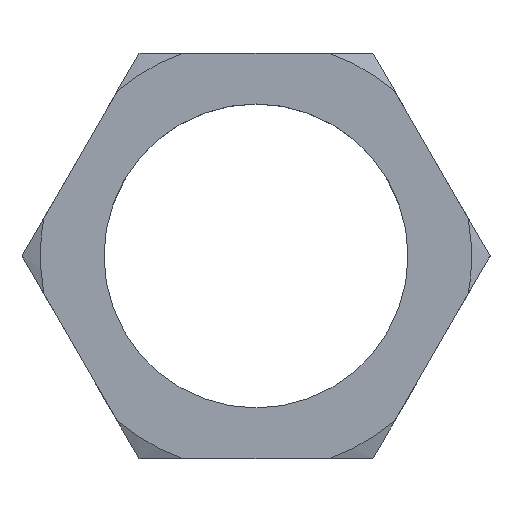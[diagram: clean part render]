
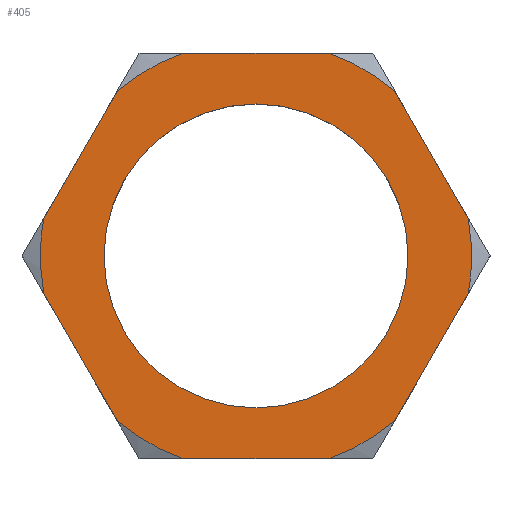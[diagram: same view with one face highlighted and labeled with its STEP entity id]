
A CAD part, top view. The second image highlights one B-rep face of the part: STEP entity #405.
In plain terms, the highlighted planar face has unit normal (0, 0, 1).
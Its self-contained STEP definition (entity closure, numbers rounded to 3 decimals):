
#57=CARTESIAN_POINT('Axis2P3D Location',(0.,0.,80.)) ;
#61=CARTESIAN_POINT('Vertex',(-22.5,0.,80.)) ;
#63=CARTESIAN_POINT('Vertex',(22.5,0.,80.)) ;
#92=CARTESIAN_POINT('Axis2P3D Location',(0.,0.,80.)) ;
#268=CARTESIAN_POINT('Axis2P3D Location',(0.,0.,80.)) ;
#274=CARTESIAN_POINT('Control Point',(-20.544,24.417,80.)) ;
#275=CARTESIAN_POINT('Control Point',(-18.826,25.862,80.)) ;
#276=CARTESIAN_POINT('Control Point',(-16.982,27.156,80.)) ;
#277=CARTESIAN_POINT('Control Point',(-15.027,28.285,80.)) ;
#278=CARTESIAN_POINT('Control Point',(-12.984,29.235,80.)) ;
#279=CARTESIAN_POINT('Control Point',(-10.873,30.,80.)) ;
#280=CARTESIAN_POINT('Vertex',(-20.544,24.417,80.)) ;
#282=CARTESIAN_POINT('Vertex',(-10.873,30.,80.)) ;
#285=CARTESIAN_POINT('Line Origine',(-25.981,15.,80.)) ;
#289=CARTESIAN_POINT('Vertex',(-31.417,5.583,80.)) ;
#293=CARTESIAN_POINT('Control Point',(-31.417,-5.583,80.)) ;
#294=CARTESIAN_POINT('Control Point',(-31.422,-5.558,80.)) ;
#295=CARTESIAN_POINT('Control Point',(-31.427,-5.532,80.)) ;
#296=CARTESIAN_POINT('Control Point',(-31.431,-5.507,80.)) ;
#297=CARTESIAN_POINT('Control Point',(-31.817,-3.297,80.)) ;
#298=CARTESIAN_POINT('Control Point',(-32.008,-1.054,80.)) ;
#299=CARTESIAN_POINT('Control Point',(-32.004,1.174,80.)) ;
#300=CARTESIAN_POINT('Control Point',(-31.806,3.393,80.)) ;
#301=CARTESIAN_POINT('Control Point',(-31.419,5.577,80.)) ;
#302=CARTESIAN_POINT('Control Point',(-31.418,5.579,80.)) ;
#303=CARTESIAN_POINT('Control Point',(-31.418,5.581,80.)) ;
#304=CARTESIAN_POINT('Control Point',(-31.417,5.583,80.)) ;
#305=CARTESIAN_POINT('Vertex',(-31.417,-5.583,80.)) ;
#308=CARTESIAN_POINT('Line Origine',(-25.981,-15.,80.)) ;
#312=CARTESIAN_POINT('Vertex',(-20.544,-24.417,80.)) ;
#316=CARTESIAN_POINT('Control Point',(-20.544,-24.417,80.)) ;
#317=CARTESIAN_POINT('Control Point',(-18.826,-25.862,80.)) ;
#318=CARTESIAN_POINT('Control Point',(-16.982,-27.156,80.)) ;
#319=CARTESIAN_POINT('Control Point',(-15.027,-28.285,80.)) ;
#320=CARTESIAN_POINT('Control Point',(-12.984,-29.235,80.)) ;
#321=CARTESIAN_POINT('Control Point',(-10.873,-30.,80.)) ;
#322=CARTESIAN_POINT('Vertex',(-10.873,-30.,80.)) ;
#325=CARTESIAN_POINT('Line Origine',(0.,-30.,80.)) ;
#329=CARTESIAN_POINT('Vertex',(10.873,-30.,80.)) ;
#333=CARTESIAN_POINT('Control Point',(20.544,-24.417,80.)) ;
#334=CARTESIAN_POINT('Control Point',(18.826,-25.862,80.)) ;
#335=CARTESIAN_POINT('Control Point',(16.982,-27.156,80.)) ;
#336=CARTESIAN_POINT('Control Point',(15.027,-28.285,80.)) ;
#337=CARTESIAN_POINT('Control Point',(12.984,-29.235,80.)) ;
#338=CARTESIAN_POINT('Control Point',(10.873,-30.,80.)) ;
#339=CARTESIAN_POINT('Vertex',(20.544,-24.417,80.)) ;
#342=CARTESIAN_POINT('Line Origine',(25.981,-15.,80.)) ;
#346=CARTESIAN_POINT('Vertex',(31.417,-5.583,80.)) ;
#350=CARTESIAN_POINT('Control Point',(31.417,5.583,80.)) ;
#351=CARTESIAN_POINT('Control Point',(31.422,5.558,80.)) ;
#352=CARTESIAN_POINT('Control Point',(31.427,5.532,80.)) ;
#353=CARTESIAN_POINT('Control Point',(31.431,5.507,80.)) ;
#354=CARTESIAN_POINT('Control Point',(31.817,3.297,80.)) ;
#355=CARTESIAN_POINT('Control Point',(32.008,1.054,80.)) ;
#356=CARTESIAN_POINT('Control Point',(32.004,-1.174,80.)) ;
#357=CARTESIAN_POINT('Control Point',(31.806,-3.393,80.)) ;
#358=CARTESIAN_POINT('Control Point',(31.419,-5.577,80.)) ;
#359=CARTESIAN_POINT('Control Point',(31.418,-5.579,80.)) ;
#360=CARTESIAN_POINT('Control Point',(31.418,-5.581,80.)) ;
#361=CARTESIAN_POINT('Control Point',(31.417,-5.583,80.)) ;
#362=CARTESIAN_POINT('Vertex',(31.417,5.583,80.)) ;
#365=CARTESIAN_POINT('Line Origine',(25.981,15.,80.)) ;
#369=CARTESIAN_POINT('Vertex',(20.544,24.417,80.)) ;
#373=CARTESIAN_POINT('Control Point',(20.544,24.417,80.)) ;
#374=CARTESIAN_POINT('Control Point',(18.826,25.862,80.)) ;
#375=CARTESIAN_POINT('Control Point',(16.982,27.156,80.)) ;
#376=CARTESIAN_POINT('Control Point',(15.027,28.285,80.)) ;
#377=CARTESIAN_POINT('Control Point',(12.984,29.235,80.)) ;
#378=CARTESIAN_POINT('Control Point',(10.873,30.,80.)) ;
#379=CARTESIAN_POINT('Vertex',(10.873,30.,80.)) ;
#382=CARTESIAN_POINT('Line Origine',(0.,30.,80.)) ;
#58=DIRECTION('Axis2P3D Direction',(0.,0.,1.)) ;
#93=DIRECTION('Axis2P3D Direction',(0.,0.,1.)) ;
#269=DIRECTION('Axis2P3D Direction',(0.,0.,1.)) ;
#270=DIRECTION('Axis2P3D XDirection',(1.,0.,0.)) ;
#286=DIRECTION('Vector Direction',(-0.5,-0.866,0.)) ;
#309=DIRECTION('Vector Direction',(0.5,-0.866,0.)) ;
#326=DIRECTION('Vector Direction',(1.,0.,0.)) ;
#343=DIRECTION('Vector Direction',(0.5,0.866,0.)) ;
#366=DIRECTION('Vector Direction',(-0.5,0.866,0.)) ;
#383=DIRECTION('Vector Direction',(-1.,0.,0.)) ;
#59=AXIS2_PLACEMENT_3D('Circle Axis2P3D',#57,#58,$) ;
#94=AXIS2_PLACEMENT_3D('Circle Axis2P3D',#92,#93,$) ;
#271=AXIS2_PLACEMENT_3D('Plane Axis2P3D',#268,#269,#270) ;
#388=ORIENTED_EDGE('',*,*,#284,.F.) ;
#389=ORIENTED_EDGE('',*,*,#291,.T.) ;
#390=ORIENTED_EDGE('',*,*,#307,.F.) ;
#391=ORIENTED_EDGE('',*,*,#314,.T.) ;
#392=ORIENTED_EDGE('',*,*,#324,.T.) ;
#393=ORIENTED_EDGE('',*,*,#331,.T.) ;
#394=ORIENTED_EDGE('',*,*,#341,.F.) ;
#395=ORIENTED_EDGE('',*,*,#348,.T.) ;
#396=ORIENTED_EDGE('',*,*,#364,.F.) ;
#397=ORIENTED_EDGE('',*,*,#371,.T.) ;
#398=ORIENTED_EDGE('',*,*,#381,.T.) ;
#399=ORIENTED_EDGE('',*,*,#386,.T.) ;
#402=ORIENTED_EDGE('',*,*,#65,.F.) ;
#403=ORIENTED_EDGE('',*,*,#96,.F.) ;
#404=FACE_BOUND('',#401,.T.) ;
#287=VECTOR('Line Direction',#286,1.) ;
#310=VECTOR('Line Direction',#309,1.) ;
#327=VECTOR('Line Direction',#326,1.) ;
#344=VECTOR('Line Direction',#343,1.) ;
#367=VECTOR('Line Direction',#366,1.) ;
#384=VECTOR('Line Direction',#383,1.) ;
#405=ADVANCED_FACE('',(#400,#404),#272,.T.) ;
#273=B_SPLINE_CURVE_WITH_KNOTS('',5,(#274,#275,#276,#277,#278,#279),.UNSPECIFIED.,.F.,.U.,(6,6),(47.077,59.153),.UNSPECIFIED.) ;
#292=B_SPLINE_CURVE_WITH_KNOTS('',5,(#293,#294,#295,#296,#297,#298,#299,#300,#301,#302,#303,#304),.UNSPECIFIED.,.F.,.U.,(6,3,3,6),(11.127,11.267,23.192,23.203),.UNSPECIFIED.) ;
#315=B_SPLINE_CURVE_WITH_KNOTS('',5,(#316,#317,#318,#319,#320,#321),.UNSPECIFIED.,.F.,.U.,(6,6),(12.747,24.823),.UNSPECIFIED.) ;
#332=B_SPLINE_CURVE_WITH_KNOTS('',5,(#333,#334,#335,#336,#337,#338),.UNSPECIFIED.,.F.,.U.,(6,6),(47.077,59.153),.UNSPECIFIED.) ;
#349=B_SPLINE_CURVE_WITH_KNOTS('',5,(#350,#351,#352,#353,#354,#355,#356,#357,#358,#359,#360,#361),.UNSPECIFIED.,.F.,.U.,(6,3,3,6),(11.127,11.267,23.192,23.203),.UNSPECIFIED.) ;
#372=B_SPLINE_CURVE_WITH_KNOTS('',5,(#373,#374,#375,#376,#377,#378),.UNSPECIFIED.,.F.,.U.,(6,6),(12.747,24.823),.UNSPECIFIED.) ;
#60=CIRCLE('generated circle',#59,22.5) ;
#95=CIRCLE('generated circle',#94,22.5) ;
#65=EDGE_CURVE('',#62,#64,#60,.T.) ;
#96=EDGE_CURVE('',#64,#62,#95,.T.) ;
#284=EDGE_CURVE('',#281,#283,#273,.T.) ;
#291=EDGE_CURVE('',#281,#290,#288,.T.) ;
#307=EDGE_CURVE('',#306,#290,#292,.T.) ;
#314=EDGE_CURVE('',#306,#313,#311,.T.) ;
#324=EDGE_CURVE('',#313,#323,#315,.T.) ;
#331=EDGE_CURVE('',#323,#330,#328,.T.) ;
#341=EDGE_CURVE('',#340,#330,#332,.T.) ;
#348=EDGE_CURVE('',#340,#347,#345,.T.) ;
#364=EDGE_CURVE('',#363,#347,#349,.T.) ;
#371=EDGE_CURVE('',#363,#370,#368,.T.) ;
#381=EDGE_CURVE('',#370,#380,#372,.T.) ;
#386=EDGE_CURVE('',#380,#283,#385,.T.) ;
#387=EDGE_LOOP('',(#388,#389,#390,#391,#392,#393,#394,#395,#396,#397,#398,#399)) ;
#401=EDGE_LOOP('',(#402,#403)) ;
#400=FACE_OUTER_BOUND('',#387,.T.) ;
#288=LINE('Line',#285,#287) ;
#311=LINE('Line',#308,#310) ;
#328=LINE('Line',#325,#327) ;
#345=LINE('Line',#342,#344) ;
#368=LINE('Line',#365,#367) ;
#385=LINE('Line',#382,#384) ;
#272=PLANE('Plane',#271) ;
#62=VERTEX_POINT('',#61) ;
#64=VERTEX_POINT('',#63) ;
#281=VERTEX_POINT('',#280) ;
#283=VERTEX_POINT('',#282) ;
#290=VERTEX_POINT('',#289) ;
#306=VERTEX_POINT('',#305) ;
#313=VERTEX_POINT('',#312) ;
#323=VERTEX_POINT('',#322) ;
#330=VERTEX_POINT('',#329) ;
#340=VERTEX_POINT('',#339) ;
#347=VERTEX_POINT('',#346) ;
#363=VERTEX_POINT('',#362) ;
#370=VERTEX_POINT('',#369) ;
#380=VERTEX_POINT('',#379) ;
